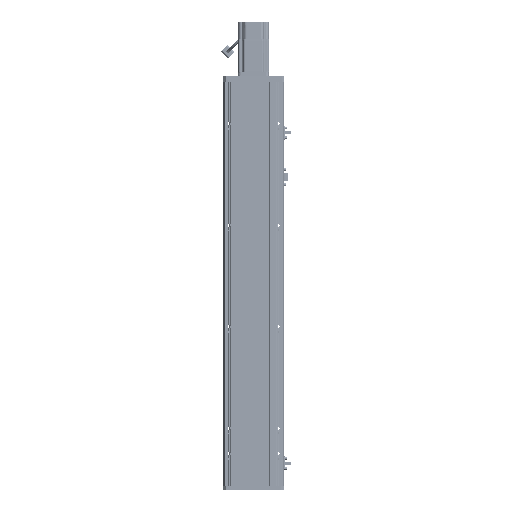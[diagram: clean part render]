
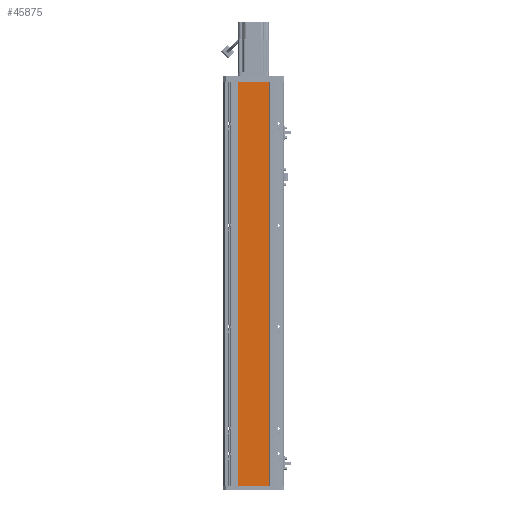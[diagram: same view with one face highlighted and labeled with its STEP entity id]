
A CAD part, front view. The second image highlights one B-rep face of the part: STEP entity #45875.
In plain terms, the highlighted planar face has unit normal (0, -1, 0).
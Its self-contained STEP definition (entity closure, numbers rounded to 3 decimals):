
#284 = LINE ( 'NONE', #19483, #20708 ) ;
#3799 = ORIENTED_EDGE ( 'NONE', *, *, #65318, .F. ) ;
#4057 = ORIENTED_EDGE ( 'NONE', *, *, #93815, .F. ) ;
#11520 = CARTESIAN_POINT ( 'NONE',  ( 30., 0., -796.5 ) ) ;
#12478 = CARTESIAN_POINT ( 'NONE',  ( -30., 0., -796.5 ) ) ;
#13473 = LINE ( 'NONE', #89537, #27074 ) ;
#19483 = CARTESIAN_POINT ( 'NONE',  ( 30., 0., -796.5 ) ) ;
#20708 = VECTOR ( 'NONE', #45308, 1000. ) ;
#20760 = DIRECTION ( 'NONE',  ( -1., 0., 0. ) ) ;
#22070 = FACE_OUTER_BOUND ( 'NONE', #31778, .T. ) ;
#27074 = VECTOR ( 'NONE', #20760, 1000. ) ;
#28985 = DIRECTION ( 'NONE',  ( -1., 0., 0. ) ) ;
#30511 = VERTEX_POINT ( 'NONE', #92904 ) ;
#31390 = DIRECTION ( 'NONE',  ( -1., 0., 0. ) ) ;
#31778 = EDGE_LOOP ( 'NONE', ( #72208, #3799, #4057, #106858 ) ) ;
#35590 = CARTESIAN_POINT ( 'NONE',  ( 30., 0., 0. ) ) ;
#37412 = VECTOR ( 'NONE', #31390, 1000. ) ;
#39125 = EDGE_CURVE ( 'NONE', #30511, #95256, #284, .T. ) ;
#45308 = DIRECTION ( 'NONE',  ( 0., 0., 1. ) ) ;
#45875 = ADVANCED_FACE ( 'NONE', ( #22070 ), #63536, .F. ) ;
#63536 = PLANE ( 'NONE',  #81831 ) ;
#65318 = EDGE_CURVE ( 'NONE', #111029, #108894, #78881, .T. ) ;
#72208 = ORIENTED_EDGE ( 'NONE', *, *, #104416, .T. ) ;
#73380 = VECTOR ( 'NONE', #81997, 1000. ) ;
#78881 = LINE ( 'NONE', #12478, #73380 ) ;
#81064 = DIRECTION ( 'NONE',  ( 0., 1., 0. ) ) ;
#81831 = AXIS2_PLACEMENT_3D ( 'NONE', #11520, #81064, #28985 ) ;
#81997 = DIRECTION ( 'NONE',  ( 0., 0., 1. ) ) ;
#89537 = CARTESIAN_POINT ( 'NONE',  ( 30., 0., -796.5 ) ) ;
#92196 = CARTESIAN_POINT ( 'NONE',  ( 30., 0., 0. ) ) ;
#92904 = CARTESIAN_POINT ( 'NONE',  ( 30., 0., -796.5 ) ) ;
#93815 = EDGE_CURVE ( 'NONE', #30511, #111029, #13473, .T. ) ;
#95256 = VERTEX_POINT ( 'NONE', #35590 ) ;
#103378 = CARTESIAN_POINT ( 'NONE',  ( -30., 0., -796.5 ) ) ;
#104416 = EDGE_CURVE ( 'NONE', #95256, #108894, #109461, .T. ) ;
#106858 = ORIENTED_EDGE ( 'NONE', *, *, #39125, .T. ) ;
#108894 = VERTEX_POINT ( 'NONE', #112030 ) ;
#109461 = LINE ( 'NONE', #92196, #37412 ) ;
#111029 = VERTEX_POINT ( 'NONE', #103378 ) ;
#112030 = CARTESIAN_POINT ( 'NONE',  ( -30., 0., 0. ) ) ;
